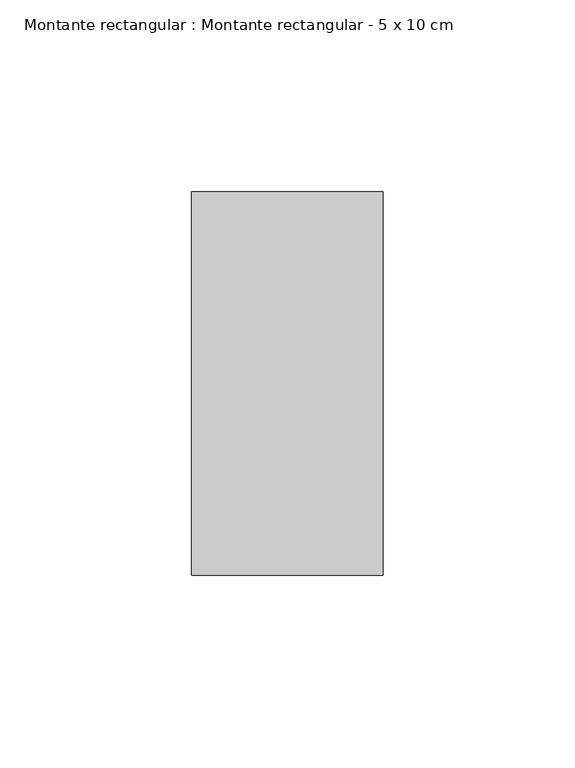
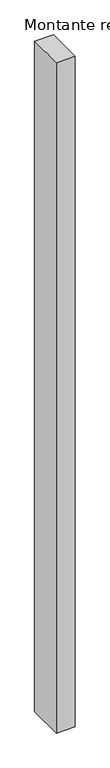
"""IFC4 building model written with IfcOpenShell, lengths in millimetres: member geometry, Montante rectangular : Montante rectangular - 5 x 10 cm."""

from ifc_helpers import new_model, si_unit, frame, origin, place, context, project, spatial, polyline, outline, extrude, source, transform, mapped, element, save


def montante_rectangular_montante_rectangular_5_x_10_cm_8d45a41d(model_context):
    return source(origin(), model_context, "Body", "SweptSolid", [
        extrude(outline(polyline([(25.0, 50.0), (25.0, -50.0), (-25.0, -50.0), (-25.0, 50.0), (25.0, 50.0)])), frame((0.0, 0.0, -1895.0), z_axis=(0.0, 0.0, 1.0), x_axis=(1.0, 0.0, 0.0)), (0.0, 0.0, 1.0), 1895.0),
    ])


if __name__ == "__main__":
    model = new_model("IFC4")
    model_context = context("Model", 3, world=origin())
    ifc_project = project(units=[si_unit("LENGTHUNIT", "METRE", prefix="MILLI")], contexts=[model_context])
    site = spatial("IfcSite", under=ifc_project)
    building = spatial("IfcBuilding", under=site)
    placement = place(None, origin())
    montante_rectangular_montante_rectangular_5_x_10_cm_shape = montante_rectangular_montante_rectangular_5_x_10_cm_8d45a41d(model_context)
    element("IfcMember", 1, ObjectType="Montante rectangular : Montante rectangular - 5 x 10 cm", at=placement, inside=building, context=model_context, shape_type="MappedRepresentation", body=[
        mapped(montante_rectangular_montante_rectangular_5_x_10_cm_shape, transform((0.0, 0.0, 0.0), x_axis=(1.0, 0.0, 0.0), y_axis=(0.0, 1.0, 0.0), z_axis=(0.0, 0.0, 1.0))),
    ])
    save(model, "model.ifc")
